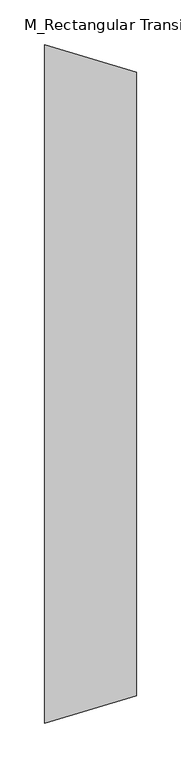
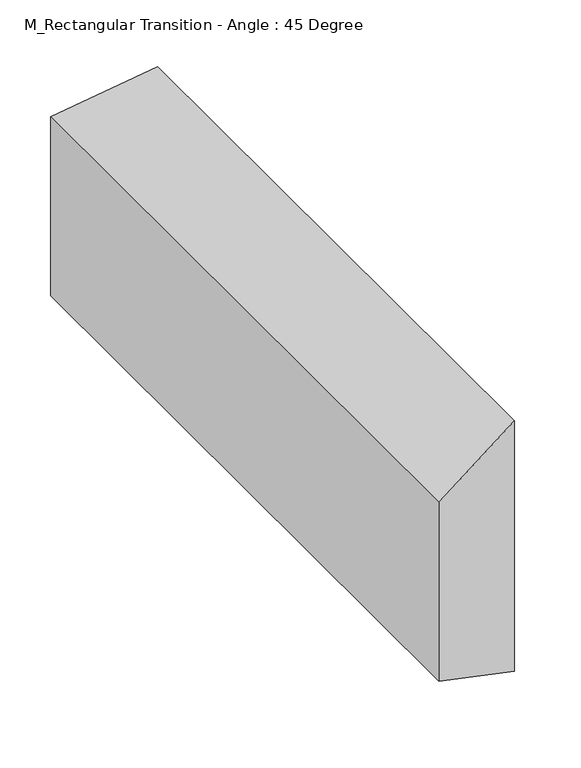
"""IFC4 building model written with IfcOpenShell, lengths in millimetres: duct fitting geometry, M_Rectangular Transition - Angle : 45 Degree."""

from ifc_helpers import new_model, si_unit, origin, place, context, project, spatial, faceted_brep, source, transform, mapped, element, save


def m_rectangular_transition_angle_45_degree_603cf0b0(model_context):
    return source(origin(), model_context, "Body", "Brep", [
        faceted_brep([(103.4490511, -350.0, 150.0), (103.4490511, -350.0, -150.0), (103.4490511, 350.0, -150.0), (103.4490511, 350.0, 150.0), (0.0, -380.9375, 107.15), (0.0, 380.9375, 107.15), (0.0, 380.9375, -107.15), (0.0, -380.9375, -107.15)], [[[0, 1, 2, 3]], [[4, 5, 6, 7]], [[4, 7, 1, 0]], [[7, 6, 2, 1]], [[6, 5, 3, 2]], [[5, 4, 0, 3]]]),
    ])


if __name__ == "__main__":
    model = new_model("IFC4")
    model_context = context("Model", 3, world=origin())
    ifc_project = project(units=[si_unit("LENGTHUNIT", "METRE", prefix="MILLI")], contexts=[model_context])
    site = spatial("IfcSite", under=ifc_project)
    building = spatial("IfcBuilding", under=site)
    placement = place(None, origin())
    m_rectangular_transition_angle_45_degree_shape = m_rectangular_transition_angle_45_degree_603cf0b0(model_context)
    element("IfcDuctFitting", 1, ObjectType="M_Rectangular Transition - Angle : 45 Degree", at=placement, inside=building, context=model_context, shape_type="MappedRepresentation", body=[
        mapped(m_rectangular_transition_angle_45_degree_shape, transform((0.0, 0.0, 0.0), x_axis=(1.0, 0.0, 0.0), y_axis=(0.0, 1.0, 0.0), z_axis=(0.0, 0.0, 1.0))),
    ])
    save(model, "model.ifc")
